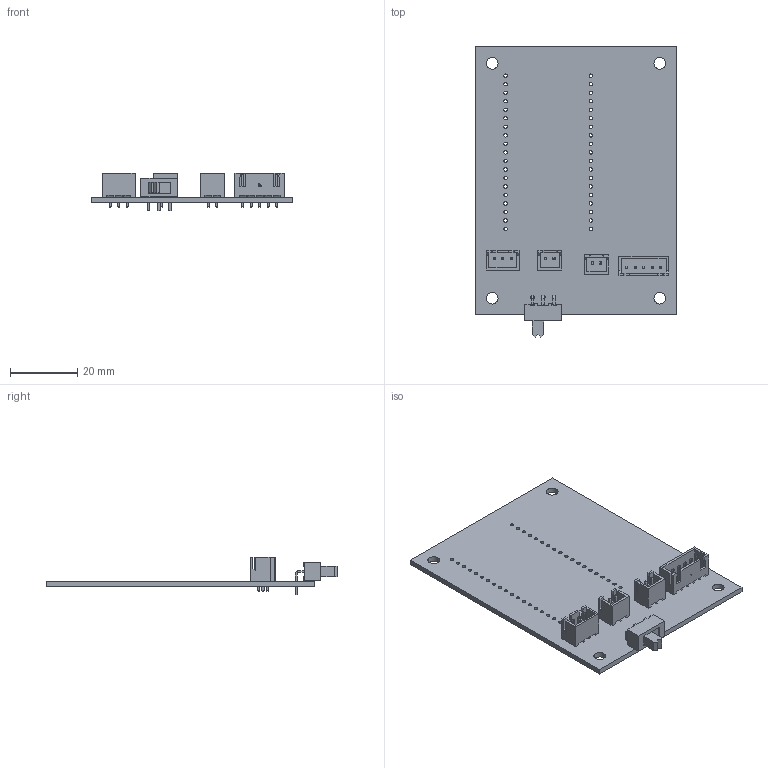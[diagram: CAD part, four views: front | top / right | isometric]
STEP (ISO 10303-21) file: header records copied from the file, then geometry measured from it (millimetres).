
FILE_DESCRIPTION(('KiCad electronic assembly'),'2;1');
FILE_NAME('pcb-thermo-bibli.step','2022-05-05T11:45:57',('An Author'),( 'A Company'),'Open CASCADE STEP processor 7.5', 'KiCad to STEP converter','Unknown');
FILE_SCHEMA(('AUTOMOTIVE_DESIGN { 1 0 10303 214 1 1 1 1 }'));
Length unit declared in the file: millimetre
Products named in the file (10): Open CASCADE STEP translator 7.5 1; 1825116-1; COMPOUND; JST - XH - Thru (V) - 2Pin - 2.54mm; SOLID; JST - XH - Thru (V) - 5Pin - 2.54mm; JST - XH - Thru (V) - 3Pin - 2.54mm
Assembly tree (10 placements, depth 3):
  Open CASCADE STEP translator 7.5 1
    1825116-1
      COMPOUND
    JST - XH - Thru (V) - 2Pin - 2.54mm  x2
      SOLID
    JST - XH - Thru (V) - 5Pin - 2.54mm
      SOLID
    JST - XH - Thru (V) - 3Pin - 2.54mm
      SOLID
    COMPOUND
Bounding box: 60 x 86.7 x 11.28 mm (x, y, z)
Volume: 8525.9 mm3; surface area: 12889.8 mm2
Topology: 9 solids, 89 shells, 1225 faces, 2956 edges, 1922 vertices
Faces by surface type: plane 1006, bspline 156, cylinder 63
Full cylindrical faces by diameter (mm): 0.95 x8, 1 x4, 1.02 x38, 1.07 x3, 3.5 x4
Entity records: 78007 total; most frequent: CARTESIAN_POINT 28113, DIRECTION 6390, ORIENTED_EDGE 4748, PCURVE 4748, DEFINITIONAL_REPRESENTATION 4748, LINE 4272, VECTOR 4272, B_SPLINE_CURVE_WITH_KNOTS 2598
